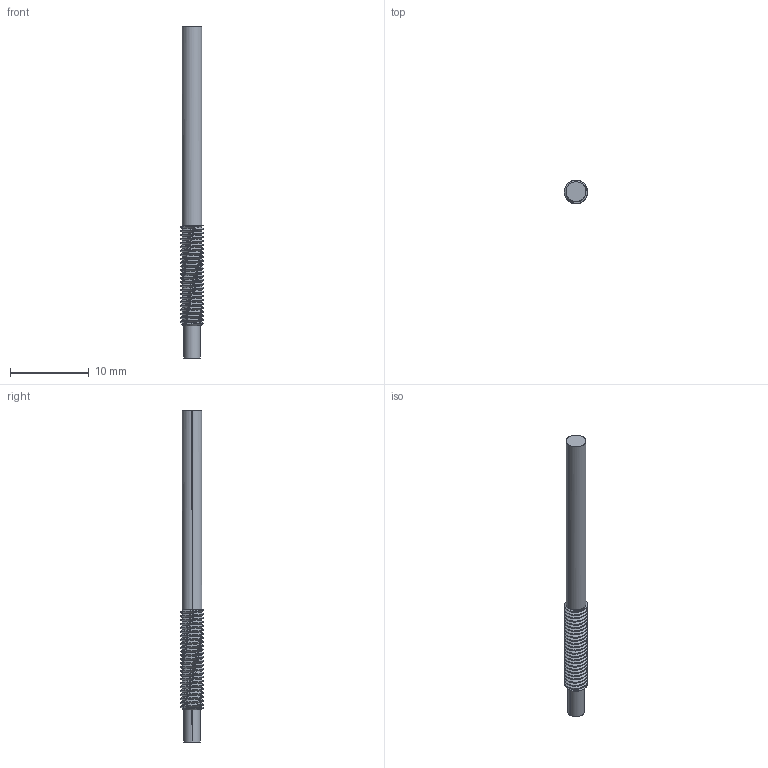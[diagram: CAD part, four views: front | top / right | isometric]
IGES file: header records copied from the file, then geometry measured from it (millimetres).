
Start section: SolidWorks IGES file using analytic representation for surfaces
Global section: file name: C:\Documents and Settings\Administrator\My Documents\EDI\3D\finished sensors\2u.IGS; native system: SolidWorks 2008; preprocessor: SolidWorks 2008; author: Administrator; date: 100304.193246; units: inch
Bounding box: 3 x 3 x 42.2 mm (x, y, z)
Surface area: 414.9 mm2 (no closed solid volume)
Topology: 0 solids, 0 shells, 66 faces, 1501 edges, 1501 vertices
Faces by surface type: revolution 58, bspline 8
